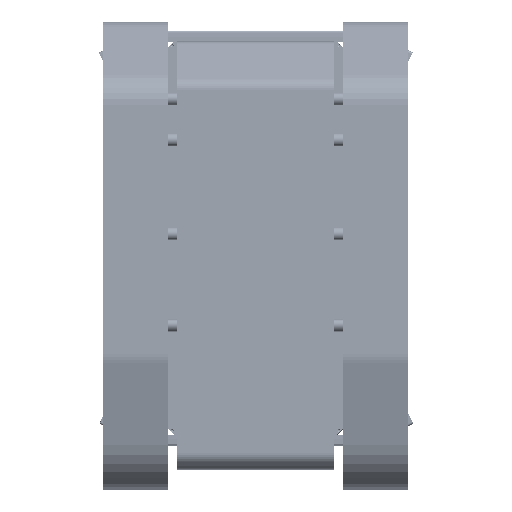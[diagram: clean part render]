
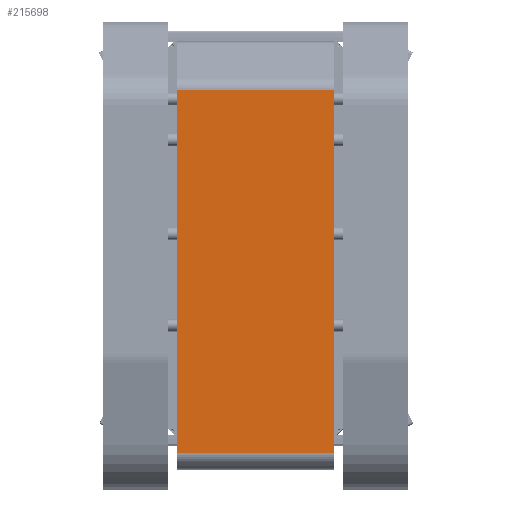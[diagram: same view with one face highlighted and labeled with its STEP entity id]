
A CAD part, front view. The second image highlights one B-rep face of the part: STEP entity #215698.
In plain terms, the highlighted planar face has unit normal (0, -1, 0) as drawn and (0, 0, -1) by its records, which use the part's own axes.
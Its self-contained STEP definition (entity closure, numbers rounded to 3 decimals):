
#1522 = LINE ( 'NONE', #55141, #64058 ) ;
#1542 = DIRECTION ( 'NONE',  ( 0., -1., 0. ) ) ;
#3763 = CARTESIAN_POINT ( 'NONE',  ( 779.102, 180., -78. ) ) ;
#26152 = LINE ( 'NONE', #78201, #167698 ) ;
#26950 = DIRECTION ( 'NONE',  ( -1., 0., 0. ) ) ;
#31058 = VERTEX_POINT ( 'NONE', #186634 ) ;
#50834 = VERTEX_POINT ( 'NONE', #59698 ) ;
#55141 = CARTESIAN_POINT ( 'NONE',  ( -52.574, 1185.497, -78. ) ) ;
#59698 = CARTESIAN_POINT ( 'NONE',  ( -52.574, 180., -78. ) ) ;
#64058 = VECTOR ( 'NONE', #1542, 1000. ) ;
#64760 = DIRECTION ( 'NONE',  ( 0., -1., 0. ) ) ;
#72687 = CARTESIAN_POINT ( 'NONE',  ( 779.102, -180., -78. ) ) ;
#78201 = CARTESIAN_POINT ( 'NONE',  ( -52.574, 180., -78. ) ) ;
#80070 = VERTEX_POINT ( 'NONE', #3763 ) ;
#87027 = DIRECTION ( 'NONE',  ( 0., 0., -1. ) ) ;
#103146 = AXIS2_PLACEMENT_3D ( 'NONE', #246451, #87027, #273157 ) ;
#104574 = EDGE_LOOP ( 'NONE', ( #192990, #274443, #114913, #330945 ) ) ;
#114913 = ORIENTED_EDGE ( 'NONE', *, *, #155608, .F. ) ;
#137054 = EDGE_CURVE ( 'NONE', #50834, #31058, #1522, .T. ) ;
#155608 = EDGE_CURVE ( 'NONE', #31058, #298633, #234256, .T. ) ;
#163372 = VECTOR ( 'NONE', #230974, 1000. ) ;
#167698 = VECTOR ( 'NONE', #26950, 1000. ) ;
#177349 = CARTESIAN_POINT ( 'NONE',  ( -52.574, -180., -78. ) ) ;
#186634 = CARTESIAN_POINT ( 'NONE',  ( -52.574, -180., -78. ) ) ;
#192990 = ORIENTED_EDGE ( 'NONE', *, *, #198634, .F. ) ;
#198634 = EDGE_CURVE ( 'NONE', #80070, #50834, #26152, .T. ) ;
#208087 = FACE_OUTER_BOUND ( 'NONE', #104574, .T. ) ;
#215698 = ADVANCED_FACE ( 'NONE', ( #208087 ), #298800, .T. ) ;
#230974 = DIRECTION ( 'NONE',  ( 1., 0., 0. ) ) ;
#234256 = LINE ( 'NONE', #177349, #163372 ) ;
#246451 = CARTESIAN_POINT ( 'NONE',  ( -52.574, 1185.497, -78. ) ) ;
#250959 = CARTESIAN_POINT ( 'NONE',  ( 779.102, 1185.497, -78. ) ) ;
#263057 = VECTOR ( 'NONE', #64760, 1000. ) ;
#264488 = EDGE_CURVE ( 'NONE', #80070, #298633, #333838, .T. ) ;
#273157 = DIRECTION ( 'NONE',  ( 0., -1., 0. ) ) ;
#274443 = ORIENTED_EDGE ( 'NONE', *, *, #264488, .T. ) ;
#298633 = VERTEX_POINT ( 'NONE', #72687 ) ;
#298800 = PLANE ( 'NONE',  #103146 ) ;
#330945 = ORIENTED_EDGE ( 'NONE', *, *, #137054, .F. ) ;
#333838 = LINE ( 'NONE', #250959, #263057 ) ;
